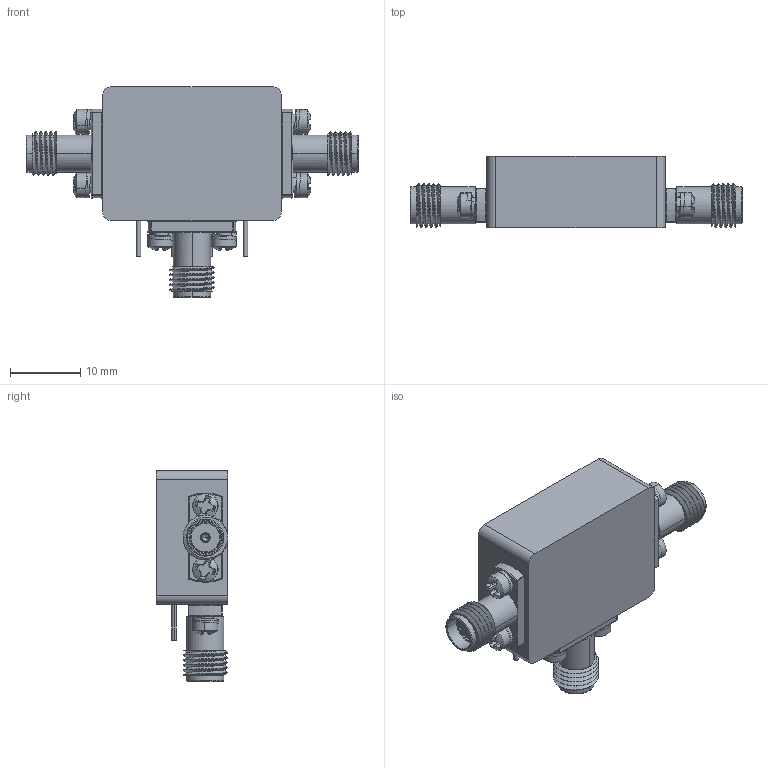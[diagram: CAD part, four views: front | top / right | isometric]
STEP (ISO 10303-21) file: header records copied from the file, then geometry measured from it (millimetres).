
FILE_DESCRIPTION (( 'STEP AP203' ), '1' );
FILE_NAME ('3D Model - P2T-100M50G-100-T.STEP', '2018-09-27T15:58:57', ( 'PMI' ), ( 'Microsoft' ), 'SwSTEP 2.0', 'SolidWorks 2014', '' );
FILE_SCHEMA (( 'CONFIG_CONTROL_DESIGN' ));
Length unit declared in the file: inch
Products named in the file (5): PL256-SWSP SPU_94241A210; PL256-PXXFI SPU_0.1875; 3D Model - P2T-100M50G-100-T; Housing SPU; PL80-380 2.4mm CONNECTOR SMALL FLANGE SPU
Assembly tree (16 placements, depth 2):
  3D Model - P2T-100M50G-100-T
    Housing SPU
    PL80-380 2.4mm CONNECTOR SMALL FLANGE SPU  x3
    PL256-SWSP SPU_94241A210  x6
    PL256-PXXFI SPU_0.1875  x6
Bounding box: 47.24 x 10.16 x 29.97 mm (x, y, z)
Volume: 5830 mm3; surface area: 4011.7 mm2
Topology: 22 solids, 22 shells, 635 faces, 1474 edges, 875 vertices
Faces by surface type: plane 194, cylinder 187, torus 126, cone 62, sphere 36, bspline 30
Entity records: 7308 total; most frequent: CARTESIAN_POINT 1811, DIRECTION 1103, ORIENTED_EDGE 898, AXIS2_PLACEMENT_3D 481, EDGE_CURVE 449, VERTEX_POINT 273, CIRCLE 262, EDGE_LOOP 230
